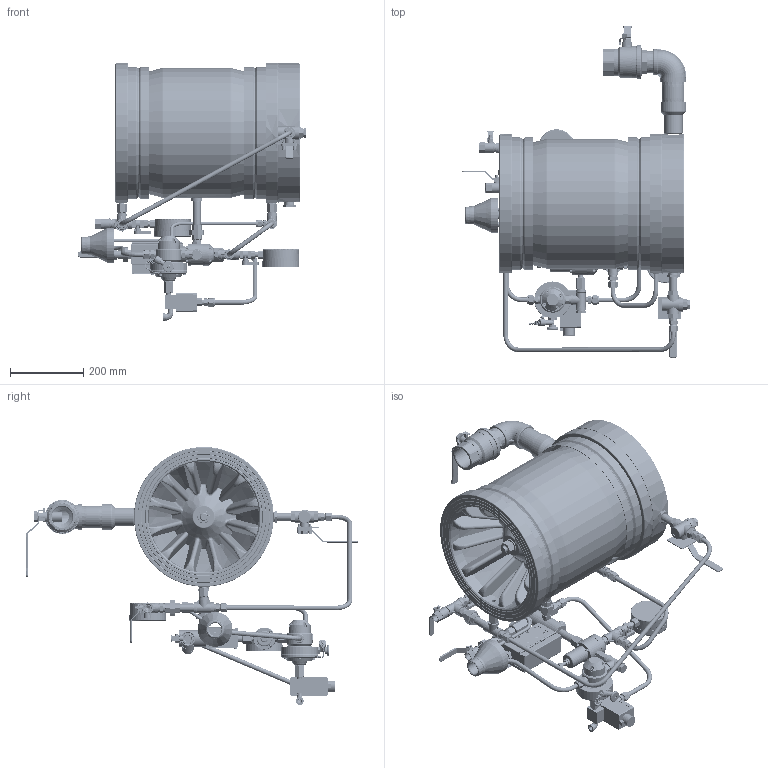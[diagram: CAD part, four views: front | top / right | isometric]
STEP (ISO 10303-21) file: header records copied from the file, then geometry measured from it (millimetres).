
FILE_DESCRIPTION(/* description */ (''),/* implementation_level */ '2;1');
FILE_NAME(/* name */ 'Z:\STANDARD SYSTEM\700DX-04CR05\STEP\799DX-04CR05 FM Trim 12in.stp',/* time_stamp */ '2020-03-17T16:48:54+02:00',/* author */ ('diana'),/* organization */ (''),/* preprocessor_version */ 'ST-DEVELOPER v16.13',/* originating_system */ 'Autodesk Inventor 2018',/* authorisation */ '');
FILE_SCHEMA (('AUTOMOTIVE_DESIGN { 1 0 10303 214 3 1 1 }'));
Length unit declared in the file: millimetre
Products named in the file (170): 799DX-04CR05 FM Trim 12in; Plug 34 SS; 5840; Check Valve; Fitting TF 14NPTxOD12; TFFitting Body 12; Nipple 12x3 SS; Adapter 14Mx12F SS; Tee 12 SS316; 290-08; 5343; 3630; 3629; 3465; DIN 912 - M5 x 12; DIN 912 - M5x30; 5340; 5341; 5339; DIN 912 - M5 x 50; 5346; ISO 7380 - M4 x 8; 6101; CHAIN SUPPORT; CHAIN2; 5175; 5173; 5174; 5257; DIN 934 - M5; 5338; 5440; 5349; Nipple 12 hex SS316; Solenoid Valve 151-6XA rotated_90; 30201; 37_39 Coil; Nipple 12x14 L60 SS; 351-08-08; ASME B16.3 90 Deg Street Elbow - Class 150 1/4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
Assembly tree (233 placements, depth 5):
  799DX-04CR05 FM Trim 12in
    Plug 12 SS  x3
    Plug 34 SS
    5840
    Check Valve
      Fitting TF 12NPTxOD12
        TFFitting Body 12_1
        Back Ferrule 12
        Front Ferrule 12
        Fitting Nut 12
      6244-1
        6245-1
        0-RING Ø12xØ3
        DIN 472 - 18 x 1
        BALL OD14mm
        5214_
        6246
        6318
        0-RING2112
    Fitting TF 14NPTxOD12
      TFFitting Body 12
      Back Ferrule 12
      Front Ferrule 12
      Fitting Nut 12
    Nipple 12x14 L60 SS  x2
    Nipple 12x3 SS
    Adapter 14Mx12F SS
    Tee 12 SS316
    290-08
      5343
      3630
      3629
      3465
      DIN 912 - M5 x 12  x6
      DIN 912 - M5x30  x4
      DIN 912 - M5 x 20  x4
      5340
      5341
      5339
      DIN 912 - M5 x 50
      5346
      ISO 7380 - M4 x 8
      6101
        CHAIN SUPPORT  x2
        CHAIN2
      5175
      5173
      5174  x2
      5257
      DIN 934 - M5  x2
      5338
      5440
      5349
    Nipple 12 hex SS316
    Solenoid Valve 151-6XA rotated_90
      30201
      37_39 Coil
    Fitting TF 12NPTxOD12  x5
      TFFitting Body 12_1
      Back Ferrule 12
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Bounding box: 623.26 x 904.59 x 703.3 mm (x, y, z)
Volume: 21849764.4 mm3; surface area: 4490315.7 mm2
Topology: 229 solids, 232 shells, 6645 faces, 15657 edges, 9745 vertices
Faces by surface type: plane 3083, cone 1422, cylinder 1400, bspline 498, torus 214, sphere 28
Full cylindrical faces by diameter (mm): 0.625 x1, 1.2 x10, 2 x8, 3 x3, 3.242 x3, 4 x13, 4.1 x2, 4.134 x29, 4.2 x6, 4.3 x2, 4.5 x2, 4.978 x2, 5 x49, 5.2 x24, 5.25 x2, 5.5 x5, 5.8 x4, 6 x7, 6.33 x4, 6.35 x2, 6.4 x4, 6.5 x4, 6.6 x2, 6.604 x1, 6.647 x1, 6.88 x2, 7 x10, 7.036 x3, 7.3 x1, 7.5 x3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
Entity records: 144503 total; most frequent: CARTESIAN_POINT 38940, DIRECTION 20151, ORIENTED_EDGE 19480, EDGE_CURVE 9731, AXIS2_PLACEMENT_3D 7749, VERTEX_POINT 6669, EDGE_LOOP 6366, LINE 4653
